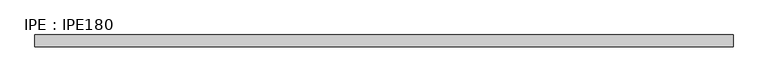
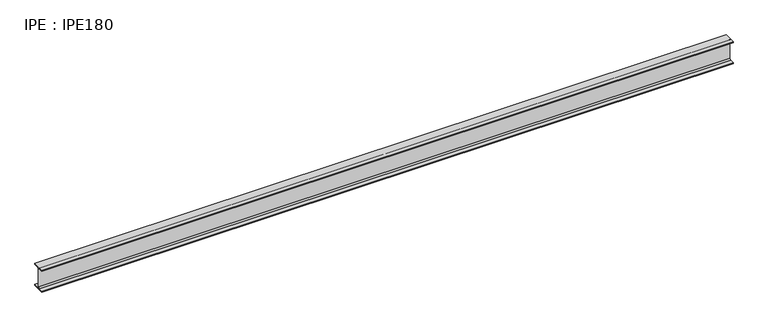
"""IFC4 building model written with IfcOpenShell, lengths in millimetres: beam geometry, IPE : IPE180."""

from ifc_helpers import new_model, si_unit, point, frame, frame_2d, origin, place, context, project, spatial, polyline, circle_curve, trimmed, segment, composite_curve, outline, extrude, source, transform, mapped, element, save


def ipe_ipe180_68082427(model_context):
    return source(origin(), model_context, "Body", "SweptSolid", [
        extrude(outline(composite_curve([segment(polyline([(45.5, -82.0), (45.5, -90.0), (-45.5, -90.0), (-45.5, -82.0), (-11.65, -82.0)]), True, "CONTINUOUS"), segment(trimmed(circle_curve(frame_2d((-11.65, -73.0)), 9.0), [point((-11.65, -82.0))], [point((-2.65, -73.0))], True, "CARTESIAN"), True, "CONTINUOUS"), segment(polyline([(-2.65, -73.0), (-2.65, 73.0)]), True, "CONTINUOUS"), segment(trimmed(circle_curve(frame_2d((-11.65, 73.0)), 9.0), [point((-2.65, 73.0))], [point((-11.65, 82.0))], True, "CARTESIAN"), True, "CONTINUOUS"), segment(polyline([(-11.65, 82.0), (-45.5, 82.0), (-45.5, 90.0), (45.5, 90.0), (45.5, 82.0), (11.65, 82.0)]), True, "CONTINUOUS"), segment(trimmed(circle_curve(frame_2d((11.65, 73.0)), 9.0), [point((11.65, 82.0))], [point((2.65, 73.0))], True, "CARTESIAN"), True, "CONTINUOUS"), segment(polyline([(2.65, 73.0), (2.65, -73.0)]), True, "CONTINUOUS"), segment(trimmed(circle_curve(frame_2d((11.65, -73.0)), 9.0), [point((2.65, -73.0))], [point((11.65, -82.0))], True, "CARTESIAN"), True, "CONTINUOUS"), segment(polyline([(11.65, -82.0), (45.5, -82.0)]), True, "CONTINUOUS")], self_intersect=False)), frame((-2685.0, 0.0, 0.0), z_axis=(1.0, 0.0, 0.0), x_axis=(0.0, 1.0, 0.0)), (0.0, 0.0, 1.0), 5363.9674399),
    ])


if __name__ == "__main__":
    model = new_model("IFC4")
    model_context = context("Model", 3, world=origin())
    ifc_project = project(units=[si_unit("LENGTHUNIT", "METRE", prefix="MILLI")], contexts=[model_context])
    site = spatial("IfcSite", under=ifc_project)
    building = spatial("IfcBuilding", under=site)
    placement = place(None, origin())
    ipe_ipe180_shape = ipe_ipe180_68082427(model_context)
    element("IfcBeam", 1, ObjectType="IPE : IPE180", at=placement, inside=building, context=model_context, shape_type="MappedRepresentation", body=[
        mapped(ipe_ipe180_shape, transform((0.0, 0.0, 0.0), x_axis=(1.0, 0.0, 0.0), y_axis=(0.0, 1.0, 0.0), z_axis=(0.0, 0.0, 1.0))),
    ])
    save(model, "model.ifc")
